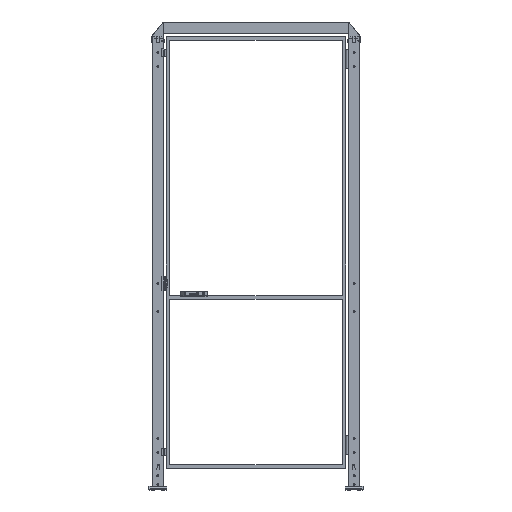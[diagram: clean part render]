
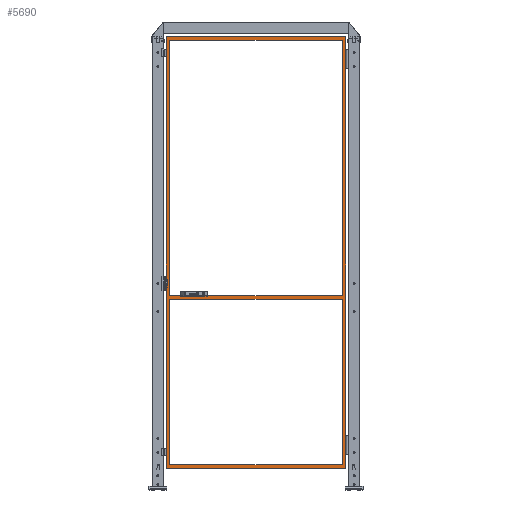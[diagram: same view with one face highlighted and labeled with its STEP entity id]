
A CAD part, top view. The second image highlights one B-rep face of the part: STEP entity #5690.
In plain terms, the highlighted planar face has unit normal (0, 0, 1).
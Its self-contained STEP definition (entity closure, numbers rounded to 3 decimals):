
#5690=ADVANCED_FACE('',(#11648,#11649,#11650),#11651,.F.);
#11648=FACE_BOUND('',#19171,.T.);
#11649=FACE_OUTER_BOUND('',#19172,.T.);
#11650=FACE_BOUND('',#19173,.T.);
#11651=PLANE('',#19174);
#19171=EDGE_LOOP('',(#35965,#35966,#35967,#35968));
#19172=EDGE_LOOP('',(#35969,#35970,#35971,#35972));
#19173=EDGE_LOOP('',(#35973,#35974,#35975,#35976));
#19174=AXIS2_PLACEMENT_3D('',#35977,#35978,#35979);
#35965=ORIENTED_EDGE('',*,*,#42847,.F.);
#35966=ORIENTED_EDGE('',*,*,#42853,.T.);
#35967=ORIENTED_EDGE('',*,*,#42875,.T.);
#35968=ORIENTED_EDGE('',*,*,#42880,.F.);
#35969=ORIENTED_EDGE('',*,*,#42891,.F.);
#35970=ORIENTED_EDGE('',*,*,#42885,.F.);
#35971=ORIENTED_EDGE('',*,*,#42855,.F.);
#35972=ORIENTED_EDGE('',*,*,#42889,.F.);
#35973=ORIENTED_EDGE('',*,*,#42877,.F.);
#35974=ORIENTED_EDGE('',*,*,#42872,.F.);
#35975=ORIENTED_EDGE('',*,*,#42883,.T.);
#35976=ORIENTED_EDGE('',*,*,#42892,.T.);
#35977=CARTESIAN_POINT('',(515.0,130.0,10.0));
#35978=DIRECTION('',(0.,0.0,-1.0));
#35979=DIRECTION('',(-1.0,0.0,0.));
#42847=EDGE_CURVE('',#52941,#52944,#52945,.T.);
#42853=EDGE_CURVE('',#52941,#52952,#52954,.T.);
#42855=EDGE_CURVE('',#52956,#52957,#52958,.T.);
#42872=EDGE_CURVE('',#52984,#52982,#52986,.T.);
#42875=EDGE_CURVE('',#52952,#52988,#52990,.T.);
#42877=EDGE_CURVE('',#52982,#52992,#52993,.T.);
#42880=EDGE_CURVE('',#52944,#52988,#52996,.T.);
#42883=EDGE_CURVE('',#52984,#52998,#53000,.T.);
#42885=EDGE_CURVE('',#52957,#53002,#53003,.T.);
#42889=EDGE_CURVE('',#53006,#52956,#53008,.T.);
#42891=EDGE_CURVE('',#53002,#53006,#53010,.T.);
#42892=EDGE_CURVE('',#52998,#52992,#53011,.T.);
#52941=VERTEX_POINT('',#68243);
#52944=VERTEX_POINT('',#68247);
#52945=LINE('',#68248,#68249);
#52952=VERTEX_POINT('',#68259);
#52954=LINE('',#68262,#68263);
#52956=VERTEX_POINT('',#68265);
#52957=VERTEX_POINT('',#68266);
#52958=LINE('',#68267,#68268);
#52982=VERTEX_POINT('',#68304);
#52984=VERTEX_POINT('',#68307);
#52986=LINE('',#68310,#68311);
#52988=VERTEX_POINT('',#68313);
#52990=LINE('',#68316,#68317);
#52992=VERTEX_POINT('',#68319);
#52993=LINE('',#68320,#68321);
#52996=LINE('',#68325,#68326);
#52998=VERTEX_POINT('',#68328);
#53000=LINE('',#68331,#68332);
#53002=VERTEX_POINT('',#68334);
#53003=LINE('',#68335,#68336);
#53006=VERTEX_POINT('',#68340);
#53008=LINE('',#68343,#68344);
#53010=LINE('',#68346,#68347);
#53011=LINE('',#68348,#68349);
#68243=CARTESIAN_POINT('',(995.0,2500.0,10.));
#68247=CARTESIAN_POINT('',(35.,2500.0,10.0));
#68248=CARTESIAN_POINT('',(515.0,2500.0,10.0));
#68249=VECTOR('',#75637,1.0);
#68259=CARTESIAN_POINT('',(995.0,1080.0,10.));
#68262=CARTESIAN_POINT('',(995.0,1320.0,10.));
#68263=VECTOR('',#75642,1.0);
#68265=CARTESIAN_POINT('',(15.0,120.0,10.0));
#68266=CARTESIAN_POINT('',(15.,2520.0,10.0));
#68267=CARTESIAN_POINT('',(15.0,130.0,10.0));
#68268=VECTOR('',#75643,1.0);
#68304=CARTESIAN_POINT('',(35.,1060.0,10.0));
#68307=CARTESIAN_POINT('',(995.0,1060.0,10.));
#68310=CARTESIAN_POINT('',(515.0,1060.0,10.0));
#68311=VECTOR('',#75658,1.0);
#68313=CARTESIAN_POINT('',(35.,1080.0,10.0));
#68316=CARTESIAN_POINT('',(515.0,1080.0,10.0));
#68317=VECTOR('',#75660,1.0);
#68319=CARTESIAN_POINT('',(35.0,140.0,10.0));
#68320=CARTESIAN_POINT('',(35.,1320.0,10.0));
#68321=VECTOR('',#75661,1.0);
#68325=CARTESIAN_POINT('',(35.,1320.0,10.0));
#68326=VECTOR('',#75663,1.0);
#68328=CARTESIAN_POINT('',(995.0,140.0,10.));
#68331=CARTESIAN_POINT('',(995.0,1320.0,10.));
#68332=VECTOR('',#75665,1.0);
#68334=CARTESIAN_POINT('',(1015.0,2520.0,10.));
#68335=CARTESIAN_POINT('',(25.,2520.0,10.0));
#68336=VECTOR('',#75666,1.0);
#68340=CARTESIAN_POINT('',(1015.0,120.0,10.));
#68343=CARTESIAN_POINT('',(515.0,120.0,10.0));
#68344=VECTOR('',#75669,1.0);
#68346=CARTESIAN_POINT('',(1015.0,1320.0,10.));
#68347=VECTOR('',#75670,1.0);
#68348=CARTESIAN_POINT('',(515.0,140.0,10.0));
#68349=VECTOR('',#75671,1.0);
#75637=DIRECTION('',(-1.0,0.0,0.));
#75642=DIRECTION('',(0.,-1.0,0.));
#75643=DIRECTION('',(0.0,1.0,0.0));
#75658=DIRECTION('',(-1.0,0.0,0.));
#75660=DIRECTION('',(-1.0,0.0,0.));
#75661=DIRECTION('',(0.,-1.0,0.));
#75663=DIRECTION('',(0.,-1.0,0.));
#75665=DIRECTION('',(0.,-1.0,0.));
#75666=DIRECTION('',(1.0,0.,0.));
#75669=DIRECTION('',(-1.0,0.0,0.));
#75670=DIRECTION('',(0.,-1.0,0.));
#75671=DIRECTION('',(-1.0,0.0,0.));
